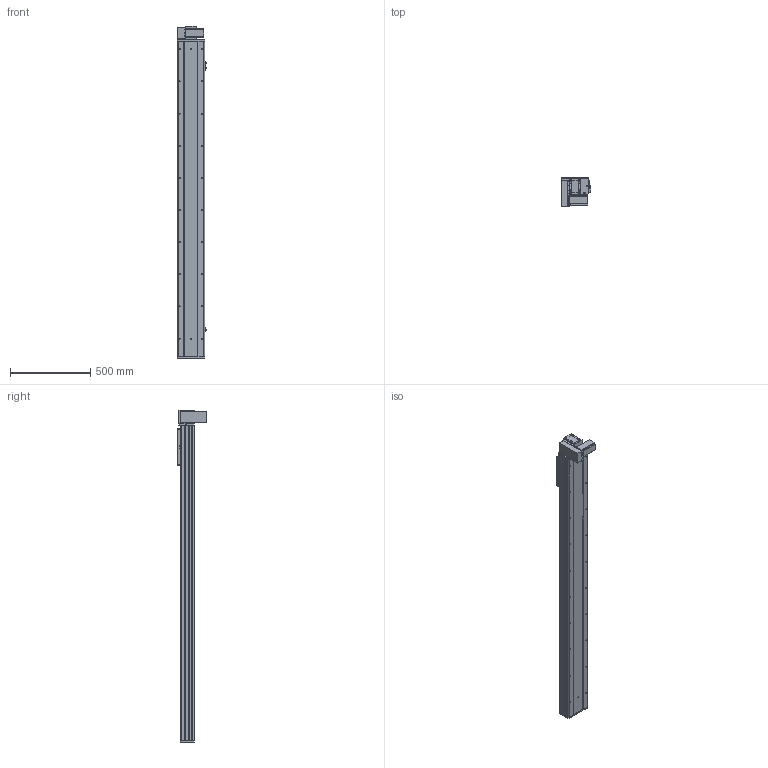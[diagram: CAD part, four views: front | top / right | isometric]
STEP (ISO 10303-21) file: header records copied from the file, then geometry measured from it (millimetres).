
FILE_DESCRIPTION (( 'STEP AP203' ), '1' );
FILE_NAME ('Y170CB-D105-S1650-BM-P400W.STEP', '2020-02-20T07:08:28', ( '微软用户' ), ( '微软中国' ), 'SwSTEP 2.0', 'SolidWorks 2017', '' );
FILE_SCHEMA (( 'CONFIG_CONTROL_DESIGN' ));
Length unit declared in the file: millimetre
Products named in the file (18): 70B喘謫眊----; 70C-雄赽釱-奻-; B-源倛裔啣; Y170CB-D105-S1650-BM-P400W; 0C--雄赽釱俋欶-170; 0B-萇儂楊擘啣; 70CB-詩湍--; san松下电机400不带刹车----; Y100-135俋离換覜ん--; 70CB-掛极-; Y170CB-陔俋离換覜結え---; --70CB --喘謫眊楊擘啣-; Y1埴倛裔; 70CB-耜裔啣-; 17B-耜蚾蟀諉啣----; 70C--詩湍揤踡え-; 00B-俋欶BM--163; 70CB--耜裔
Assembly tree (21 placements, depth 2):
  Y170CB-D105-S1650-BM-P400W
    B-源倛裔啣
    0B-萇儂楊擘啣
    san松下电机400不带刹车----
    70CB-掛极-
    --70CB --喘謫眊楊擘啣-
    70CB-耜裔啣-  x2
    70C--詩湍揤踡え-  x2
    70CB--耜裔
    70C-雄赽釱-奻-
    0C--雄赽釱俋欶-170
    70CB-詩湍--
    Y100-135俋离換覜ん--  x3
    Y170CB-陔俋离換覜結え---
    Y1埴倛裔
    17B-耜蚾蟀諉啣----
    00B-俋欶BM--163
    70B喘謫眊----
Bounding box: 183.5 x 184 x 2066 mm (x, y, z)
Volume: 9099164.2 mm3; surface area: 3275508.5 mm2
Topology: 21 solids, 21 shells, 1031 faces, 2765 edges, 1834 vertices
Faces by surface type: cylinder 545, plane 462, cone 24
Entity records: 32912 total; most frequent: CARTESIAN_POINT 6036, DIRECTION 5354, ORIENTED_EDGE 5012, EDGE_CURVE 2506, AXIS2_PLACEMENT_3D 1968, VERTEX_POINT 1664, VECTOR 1418, LINE 1418
